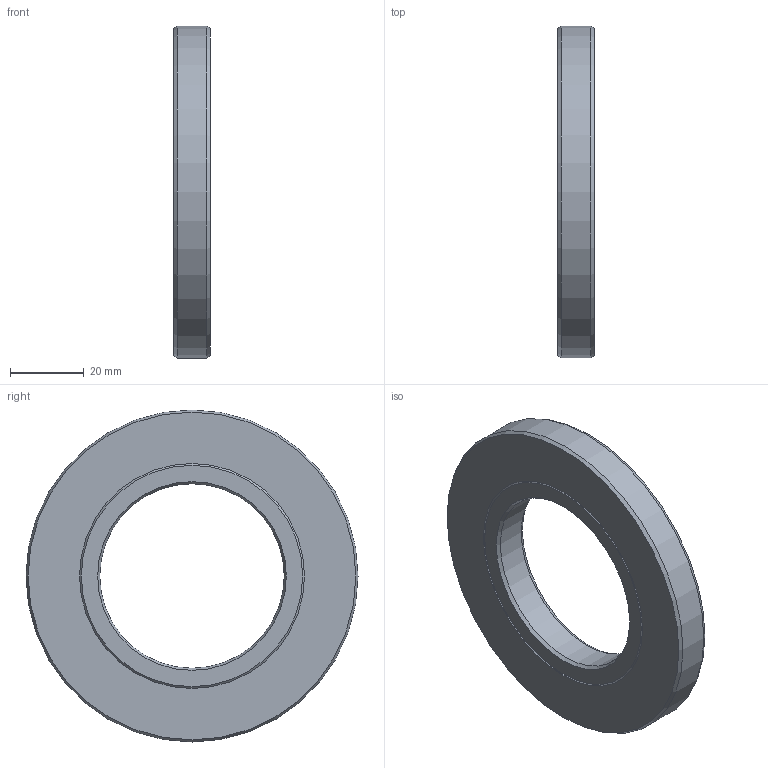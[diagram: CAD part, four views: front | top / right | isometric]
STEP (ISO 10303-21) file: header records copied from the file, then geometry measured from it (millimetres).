
FILE_DESCRIPTION(/* description */ (''),/* implementation_level */ '2;1');
FILE_NAME(/* name */ '301596 S50x90x10.stp',/* time_stamp */ '2016-12-16T13:47:51+01:00',/* author */ (''),/* organization */ (''),/* preprocessor_version */ 'ST-DEVELOPER v15',/* originating_system */ 'SIEMENS PLM Software NX 8.5',/* authorisation */ '');
FILE_SCHEMA (('CONFIG_CONTROL_DESIGN'));
Length unit declared in the file: millimetre
Products named in the file (1): ATE0000143_01
Bounding box: 10 x 90 x 90 mm (x, y, z)
Volume: 42675.9 mm3; surface area: 18102.5 mm2
Topology: 2 solids, 2 shells, 16 faces, 30 edges, 18 vertices
Faces by surface type: cone 10, plane 4, cylinder 2
Full cylindrical faces by diameter (mm): 50 x1, 90 x1
Entity records: 414 total; most frequent: DIRECTION 66, CARTESIAN_POINT 49, AXIS2_PLACEMENT_3D 33, FACE_BOUND 32, EDGE_LOOP 32, ORIENTED_EDGE 32, ADVANCED_FACE 16, VERTEX_POINT 16
